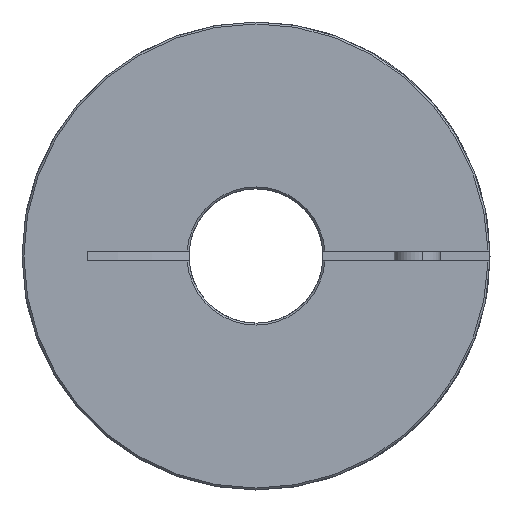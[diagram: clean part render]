
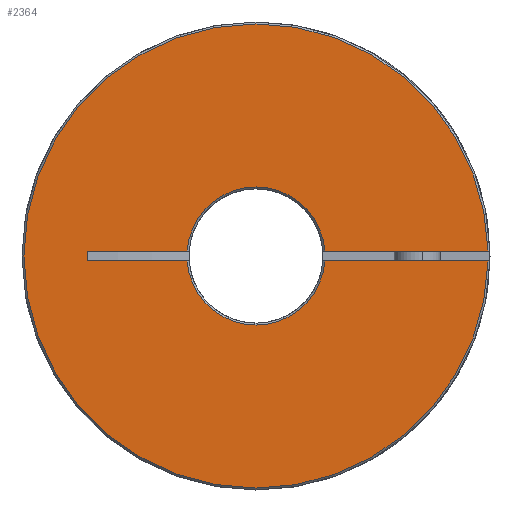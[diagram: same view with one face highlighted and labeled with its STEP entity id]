
A CAD part, left-side view. The second image highlights one B-rep face of the part: STEP entity #2364.
In plain terms, the highlighted planar face has unit normal (-1, 0, 0).
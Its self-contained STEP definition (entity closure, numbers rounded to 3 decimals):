
#31 = EDGE_LOOP ( 'NONE', ( #62, #2089, #2030, #2161, #1916, #2400, #3469, #2830, #83, #211, #1268 ) ) ;
#53 = EDGE_CURVE ( 'NONE', #2236, #2361, #2816, .T. ) ;
#62 = ORIENTED_EDGE ( 'NONE', *, *, #53, .T. ) ;
#83 = ORIENTED_EDGE ( 'NONE', *, *, #101, .T. ) ;
#84 = VERTEX_POINT ( 'NONE', #3042 ) ;
#101 = EDGE_CURVE ( 'NONE', #84, #701, #3196, .T. ) ;
#117 = VERTEX_POINT ( 'NONE', #3341 ) ;
#203 = EDGE_CURVE ( 'NONE', #2660, #701, #607, .T. ) ;
#211 = ORIENTED_EDGE ( 'NONE', *, *, #203, .F. ) ;
#459 = CARTESIAN_POINT ( 'NONE',  ( 0., -60.486, 1.3 ) ) ;
#509 = CARTESIAN_POINT ( 'NONE',  ( 0., 0., 60.5 ) ) ;
#563 = CARTESIAN_POINT ( 'NONE',  ( 0., -60.486, -1.3 ) ) ;
#588 = CIRCLE ( 'NONE', #589, 60.5 ) ;
#589 = AXIS2_PLACEMENT_3D ( 'NONE', #590, #591, #592 ) ;
#590 = CARTESIAN_POINT ( 'NONE',  ( 0., 0., 0. ) ) ;
#591 = DIRECTION ( 'NONE',  ( -1., 0., 0. ) ) ;
#592 = DIRECTION ( 'NONE',  ( 0., 0., -1. ) ) ;
#607 = LINE ( 'NONE', #608, #609 ) ;
#608 = CARTESIAN_POINT ( 'NONE',  ( 0., 17.5, -1.3 ) ) ;
#609 = VECTOR ( 'NONE', #610, 1000. ) ;
#610 = DIRECTION ( 'NONE',  ( 0., -1., 0. ) ) ;
#701 = VERTEX_POINT ( 'NONE', #2656 ) ;
#958 = CARTESIAN_POINT ( 'NONE',  ( 0., 43.826, -1.3 ) ) ;
#1171 = EDGE_CURVE ( 'NONE', #2660, #2236, #2843, .T. ) ;
#1215 = LINE ( 'NONE', #1216, #1217 ) ;
#1216 = CARTESIAN_POINT ( 'NONE',  ( 0., 17.5, 1.3 ) ) ;
#1217 = VECTOR ( 'NONE', #1218, 1000. ) ;
#1218 = DIRECTION ( 'NONE',  ( 0., -1., 0. ) ) ;
#1268 = ORIENTED_EDGE ( 'NONE', *, *, #1171, .T. ) ;
#1419 = CARTESIAN_POINT ( 'NONE',  ( 0., 0., -60.5 ) ) ;
#1580 = CARTESIAN_POINT ( 'NONE',  ( 0., 43.826, 1.3 ) ) ;
#1671 = EDGE_CURVE ( 'NONE', #2361, #117, #3135, .T. ) ;
#1762 = EDGE_CURVE ( 'NONE', #2437, #2205, #3191, .T. ) ;
#1885 = EDGE_CURVE ( 'NONE', #1976, #2437, #3459, .T. ) ;
#1916 = ORIENTED_EDGE ( 'NONE', *, *, #1885, .T. ) ;
#1976 = VERTEX_POINT ( 'NONE', #459 ) ;
#2030 = ORIENTED_EDGE ( 'NONE', *, *, #2328, .T. ) ;
#2089 = ORIENTED_EDGE ( 'NONE', *, *, #1671, .T. ) ;
#2150 = EDGE_CURVE ( 'NONE', #2289, #1976, #1215, .T. ) ;
#2161 = ORIENTED_EDGE ( 'NONE', *, *, #2150, .T. ) ;
#2205 = VERTEX_POINT ( 'NONE', #1419 ) ;
#2236 = VERTEX_POINT ( 'NONE', #1580 ) ;
#2289 = VERTEX_POINT ( 'NONE', #2701 ) ;
#2328 = EDGE_CURVE ( 'NONE', #117, #2289, #3017, .T. ) ;
#2330 = EDGE_CURVE ( 'NONE', #84, #2443, #3031, .T. ) ;
#2361 = VERTEX_POINT ( 'NONE', #3260 ) ;
#2364 = ADVANCED_FACE ( 'NONE', ( #3280 ), #3281, .F. ) ;
#2400 = ORIENTED_EDGE ( 'NONE', *, *, #1762, .T. ) ;
#2437 = VERTEX_POINT ( 'NONE', #509 ) ;
#2443 = VERTEX_POINT ( 'NONE', #563 ) ;
#2452 = EDGE_CURVE ( 'NONE', #2205, #2443, #588, .T. ) ;
#2656 = CARTESIAN_POINT ( 'NONE',  ( 0., 17.953, -1.3 ) ) ;
#2660 = VERTEX_POINT ( 'NONE', #958 ) ;
#2701 = CARTESIAN_POINT ( 'NONE',  ( 0., -17.953, 1.3 ) ) ;
#2816 = LINE ( 'NONE', #2817, #2818 ) ;
#2817 = CARTESIAN_POINT ( 'NONE',  ( 0., 17.5, 1.3 ) ) ;
#2818 = VECTOR ( 'NONE', #2819, 1000. ) ;
#2819 = DIRECTION ( 'NONE',  ( 0., -1., 0. ) ) ;
#2830 = ORIENTED_EDGE ( 'NONE', *, *, #2330, .F. ) ;
#2843 = LINE ( 'NONE', #2844, #2845 ) ;
#2844 = CARTESIAN_POINT ( 'NONE',  ( 0., 43.826, -1.3 ) ) ;
#2845 = VECTOR ( 'NONE', #2846, 1000. ) ;
#2846 = DIRECTION ( 'NONE',  ( 0., 0., 1. ) ) ;
#3017 = CIRCLE ( 'NONE', #3019, 18. ) ;
#3019 = AXIS2_PLACEMENT_3D ( 'NONE', #3020, #3021, #3022 ) ;
#3020 = CARTESIAN_POINT ( 'NONE',  ( 0., 0., 0. ) ) ;
#3021 = DIRECTION ( 'NONE',  ( 1., 0., 0. ) ) ;
#3022 = DIRECTION ( 'NONE',  ( 0., 0., -1. ) ) ;
#3031 = LINE ( 'NONE', #3032, #3033 ) ;
#3032 = CARTESIAN_POINT ( 'NONE',  ( 0., 17.5, -1.3 ) ) ;
#3033 = VECTOR ( 'NONE', #3034, 1000. ) ;
#3034 = DIRECTION ( 'NONE',  ( 0., -1., 0. ) ) ;
#3042 = CARTESIAN_POINT ( 'NONE',  ( 0., -17.953, -1.3 ) ) ;
#3135 = CIRCLE ( 'NONE', #3137, 18. ) ;
#3137 = AXIS2_PLACEMENT_3D ( 'NONE', #3138, #3139, #3140 ) ;
#3138 = CARTESIAN_POINT ( 'NONE',  ( 0., 0., 0. ) ) ;
#3139 = DIRECTION ( 'NONE',  ( 1., 0., 0. ) ) ;
#3140 = DIRECTION ( 'NONE',  ( 0., 0., -1. ) ) ;
#3191 = CIRCLE ( 'NONE', #3192, 60.5 ) ;
#3192 = AXIS2_PLACEMENT_3D ( 'NONE', #3193, #3194, #3195 ) ;
#3193 = CARTESIAN_POINT ( 'NONE',  ( 0., 0., 0. ) ) ;
#3194 = DIRECTION ( 'NONE',  ( -1., 0., 0. ) ) ;
#3195 = DIRECTION ( 'NONE',  ( 0., 0., -1. ) ) ;
#3196 = CIRCLE ( 'NONE', #3197, 18. ) ;
#3197 = AXIS2_PLACEMENT_3D ( 'NONE', #3198, #3199, #3200 ) ;
#3198 = CARTESIAN_POINT ( 'NONE',  ( 0., 0., 0. ) ) ;
#3199 = DIRECTION ( 'NONE',  ( 1., 0., 0. ) ) ;
#3200 = DIRECTION ( 'NONE',  ( 0., 0., -1. ) ) ;
#3260 = CARTESIAN_POINT ( 'NONE',  ( 0., 17.953, 1.3 ) ) ;
#3280 = FACE_OUTER_BOUND ( 'NONE', #31, .T. ) ;
#3281 = PLANE ( 'NONE',  #3282 ) ;
#3282 = AXIS2_PLACEMENT_3D ( 'NONE', #3283, #3284, #3285 ) ;
#3283 = CARTESIAN_POINT ( 'NONE',  ( 0., 17.5, 0. ) ) ;
#3284 = DIRECTION ( 'NONE',  ( 1., 0., 0. ) ) ;
#3285 = DIRECTION ( 'NONE',  ( 0., 0., -1. ) ) ;
#3341 = CARTESIAN_POINT ( 'NONE',  ( 0., 0., 18. ) ) ;
#3459 = CIRCLE ( 'NONE', #3460, 60.5 ) ;
#3460 = AXIS2_PLACEMENT_3D ( 'NONE', #3461, #3462, #3463 ) ;
#3461 = CARTESIAN_POINT ( 'NONE',  ( 0., 0., 0. ) ) ;
#3462 = DIRECTION ( 'NONE',  ( -1., 0., 0. ) ) ;
#3463 = DIRECTION ( 'NONE',  ( 0., 0., -1. ) ) ;
#3469 = ORIENTED_EDGE ( 'NONE', *, *, #2452, .T. ) ;
